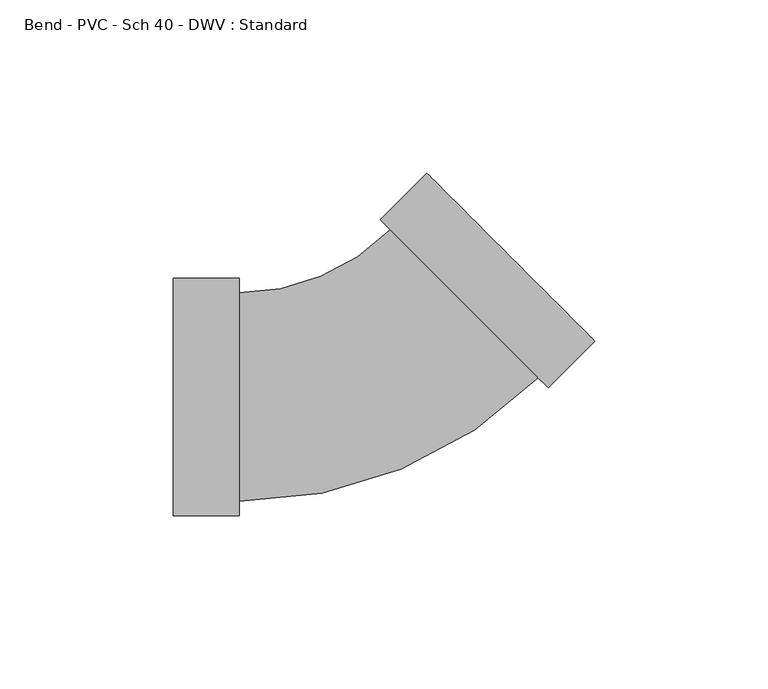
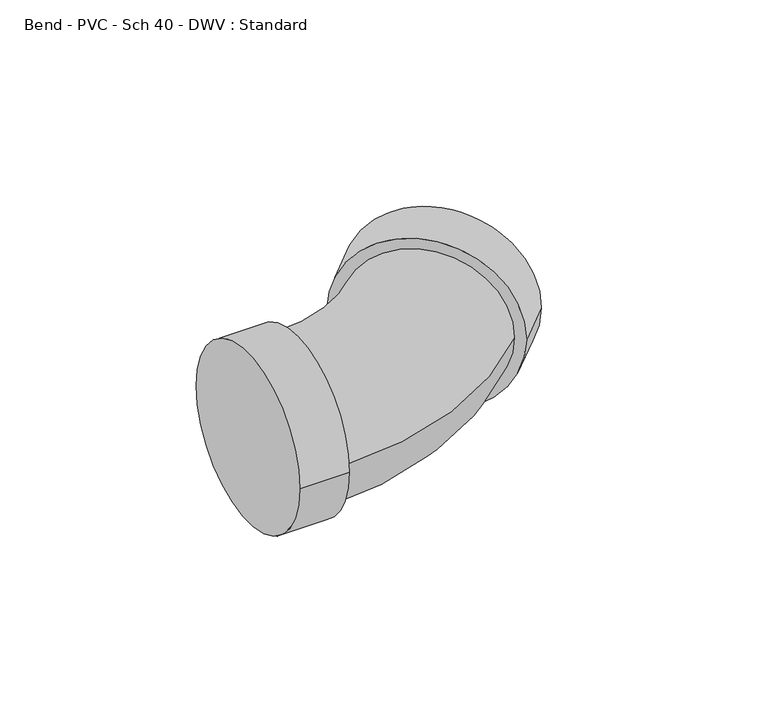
"""IFC4 building model written with IfcOpenShell, lengths in millimetres: pipe fitting geometry, Bend - PVC - Sch 40 - DWV : Standard."""

from ifc_helpers import new_model, si_unit, point, frame, origin, place, context, project, spatial, circle_curve, ellipse_curve, trimmed, source, transform, mapped, element, save
from ifc_brep_helpers import plane_surface, cylinder_surface, revolved_surface, advanced_brep


def bend_pvc_sch_40_dwv_standard_fb3cdf23(model_context):
    return source(origin(), model_context, "Body", "AdvancedBrep", [
        advanced_brep(
        [(-57.15, -34.3154, 0.0), (-57.15, 34.3154, 0.0), (-38.1, -34.3154, 0.0), (-38.1, 34.3154, 0.0), (-38.1, -30.1625, 0.0), (-38.1, 30.1625, 0.0), (5.6126604, 48.2688766, 0.0), (48.2688767, 5.6126598, 0.0), (51.2054204, 2.676116, 0.0), (2.6761166, 51.2054204, 0.0), (64.6758047, 16.1465001, 0.0), (16.1465009, 64.6758045, 0.0)],
        [
            (0, 1, circle_curve(frame((-57.15, 0.0, 0.0), z_axis=(-1.0, 0.0, 0.0), x_axis=(0.0, 1.0, 0.0)), 34.3154)),
            (1, 0, circle_curve(frame((-57.15, 0.0, 0.0), z_axis=(-1.0, 0.0, 0.0), x_axis=(0.0, 1.0, 0.0)), 34.3154)),
            (2, 3, circle_curve(frame((-38.1, 0.0, 0.0), z_axis=(1.0, 0.0, 0.0), x_axis=(0.0, 1.0, 0.0)), 34.3154)),
            (3, 2, circle_curve(frame((-38.1, 0.0, 0.0), z_axis=(1.0, 0.0, 0.0), x_axis=(0.0, 1.0, 0.0)), 34.3154)),
            (4, 5, circle_curve(frame((-38.1, 0.0, 0.0), z_axis=(-1.0, 0.0, 0.0), x_axis=(0.0, 1.0, 0.0)), 30.1625)),
            (5, 4, circle_curve(frame((-38.1, 0.0, 0.0), z_axis=(-1.0, 0.0, 0.0), x_axis=(0.0, 1.0, 0.0)), 30.1625)),
            (0, 2),
            (3, 1),
            (6, 5, circle_curve(frame((-38.1, 91.9815375, 0.0), z_axis=(0.0, 0.0, -1.0), x_axis=(0.0, -1.0, 0.0)), 61.8190375)),
            (4, 7, circle_curve(frame((-38.1, 91.9815375, 0.0), z_axis=(0.0, 0.0, 1.0), x_axis=(0.0, -1.0, 0.0)), 122.1440375)),
            (7, 6, circle_curve(frame((26.9407685, 26.9407682, 0.0), z_axis=(-0.7071067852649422, -0.7071067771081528, 0.0), x_axis=(-0.7071067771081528, 0.7071067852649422, 0.0)), 30.1625)),
            (6, 7, circle_curve(frame((26.9407685, 26.9407682, 0.0), z_axis=(-0.7071067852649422, -0.7071067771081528, 0.0), x_axis=(-0.7071067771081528, 0.7071067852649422, 0.0)), 30.1625)),
            (8, 9, circle_curve(frame((26.9407685, 26.9407682, 0.0), z_axis=(-0.7071067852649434, -0.7071067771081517, 0.0), x_axis=(-0.7071067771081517, 0.7071067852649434, 0.0)), 34.3154)),
            (9, 8, circle_curve(frame((26.9407685, 26.9407682, 0.0), z_axis=(-0.7071067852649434, -0.7071067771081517, 0.0), x_axis=(-0.7071067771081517, 0.7071067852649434, 0.0)), 34.3154)),
            (10, 11, circle_curve(frame((40.4111528, 40.4111523, 0.0), z_axis=(0.7071067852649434, 0.7071067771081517, 0.0), x_axis=(-0.7071067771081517, 0.7071067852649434, 0.0)), 34.3154)),
            (11, 10, circle_curve(frame((40.4111528, 40.4111523, 0.0), z_axis=(0.7071067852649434, 0.7071067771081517, 0.0), x_axis=(-0.7071067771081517, 0.7071067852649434, 0.0)), 34.3154)),
            (8, 10),
            (11, 9),
        ],
        [
            plane_surface(frame((-57.15, 0.0, 0.0), z_axis=(-1.0, 0.0, 0.0), x_axis=(0.0, 0.0, 1.0))),
            plane_surface(frame((-38.1, 0.0, 0.0), z_axis=(1.0, 0.0, 0.0), x_axis=(0.0, 0.0, 1.0))),
            cylinder_surface(frame((-57.15, 0.0, 0.0), z_axis=(-1.0, 0.0, 0.0), x_axis=(0.0, 1.0, 0.0)), 34.3154),
            revolved_surface(trimmed(ellipse_curve(frame((-38.1, 0.0, 0.0), z_axis=(-1.0, 0.0, 0.0), x_axis=(0.0, 1.0, 0.0)), 30.1625, 30.1625), [point((-38.1, -30.1625, 0.0))], [point((-38.1, 30.1625, 0.0))], True, "CARTESIAN"), (-38.1, 91.9815375, 0.0), (0.0, 0.0, 1.0)),
            revolved_surface(trimmed(ellipse_curve(frame((-38.1, 0.0, 0.0), z_axis=(-1.0, 0.0, 0.0), x_axis=(0.0, 1.0, 0.0)), 30.1625, 30.1625), [point((-38.1, 30.1625, 0.0))], [point((-38.1, -30.1625, 0.0))], True, "CARTESIAN"), (-38.1, 91.9815375, 0.0), (0.0, 0.0, 1.0)),
            plane_surface(frame((26.9407685, 26.9407682, 0.0), z_axis=(-0.7071067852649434, -0.7071067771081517, 0.0), x_axis=(0.0, 0.0, 1.0))),
            plane_surface(frame((40.4111528, 40.4111523, 0.0), z_axis=(0.7071067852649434, 0.7071067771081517, 0.0), x_axis=(0.0, 0.0, 1.0))),
            cylinder_surface(frame((26.9407685, 26.9407682, 0.0), z_axis=(-0.7071067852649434, -0.7071067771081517, 0.0), x_axis=(-0.7071067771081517, 0.7071067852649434, 0.0)), 34.3154),
        ],
        [
            (0, [[1, 2]]),
            (1, [[3, 4], [5, 6]]),
            (2, [[-1, 7, -4, 8]]),
            (2, [[-2, -8, -3, -7]]),
            (3, [[9, -5, 10, 11]]),
            (4, [[-9, 12, -10, -6]]),
            (5, [[13, 14], [-11, -12]]),
            (6, [[15, 16]]),
            (7, [[-13, 17, -16, 18]]),
            (7, [[-14, -18, -15, -17]]),
        ],
    ),
    ])


if __name__ == "__main__":
    model = new_model("IFC4")
    model_context = context("Model", 3, world=origin())
    ifc_project = project(units=[si_unit("LENGTHUNIT", "METRE", prefix="MILLI")], contexts=[model_context])
    site = spatial("IfcSite", under=ifc_project)
    building = spatial("IfcBuilding", under=site)
    placement = place(None, origin())
    bend_pvc_sch_40_dwv_standard_shape = bend_pvc_sch_40_dwv_standard_fb3cdf23(model_context)
    element("IfcPipeFitting", 1, ObjectType="Bend - PVC - Sch 40 - DWV : Standard", at=placement, inside=building, context=model_context, shape_type="MappedRepresentation", body=[
        mapped(bend_pvc_sch_40_dwv_standard_shape, transform((0.0, 0.0, 0.0), x_axis=(1.0, 0.0, 0.0), y_axis=(0.0, 1.0, 0.0), z_axis=(0.0, 0.0, 1.0))),
    ])
    save(model, "model.ifc")
